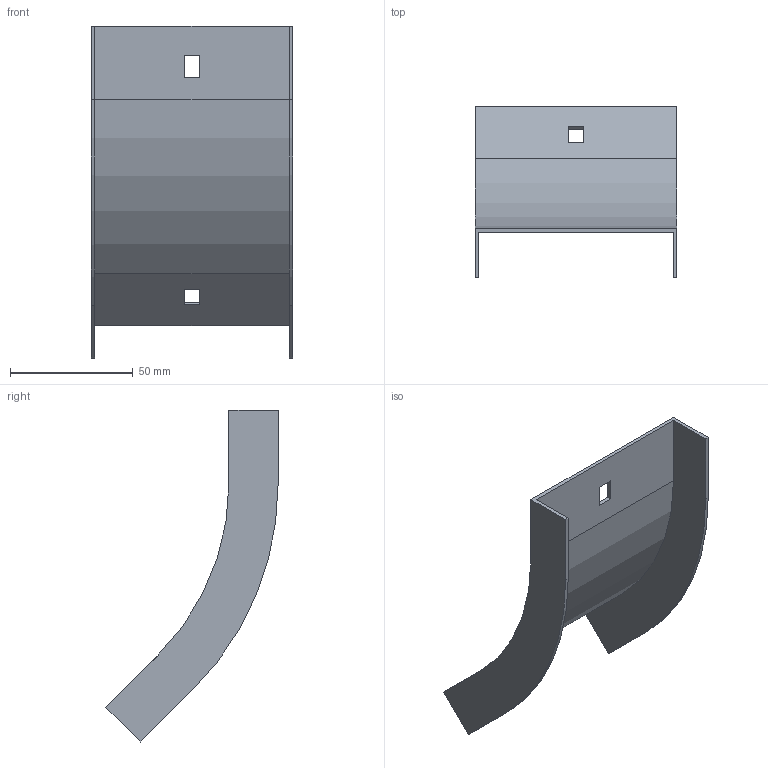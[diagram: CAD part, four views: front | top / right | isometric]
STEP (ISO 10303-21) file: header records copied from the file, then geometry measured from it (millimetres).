
FILE_DESCRIPTION (( 'STEP AP214' ), '1' );
FILE_NAME ('31G1P075.step', '2025-02-21T12:47:24', ( '' ), ( '' ), 'SwSTEP 2.0', 'SolidWorks 2023', '' );
FILE_SCHEMA (( 'AUTOMOTIVE_DESIGN' ));
Length unit declared in the file: millimetre
Products named in the file (1): 31G1P075
Bounding box: 82 x 70.06 x 135.01 mm (x, y, z)
Volume: 24884.6 mm3; surface area: 34086.9 mm2
Topology: 1 solids, 1 shells, 26 faces, 72 edges, 48 vertices
Faces by surface type: plane 22, cylinder 4
Entity records: 855 total; most frequent: CARTESIAN_POINT 147, ORIENTED_EDGE 144, DIRECTION 134, EDGE_CURVE 72, VECTOR 64, LINE 64, VERTEX_POINT 48, AXIS2_PLACEMENT_3D 35
